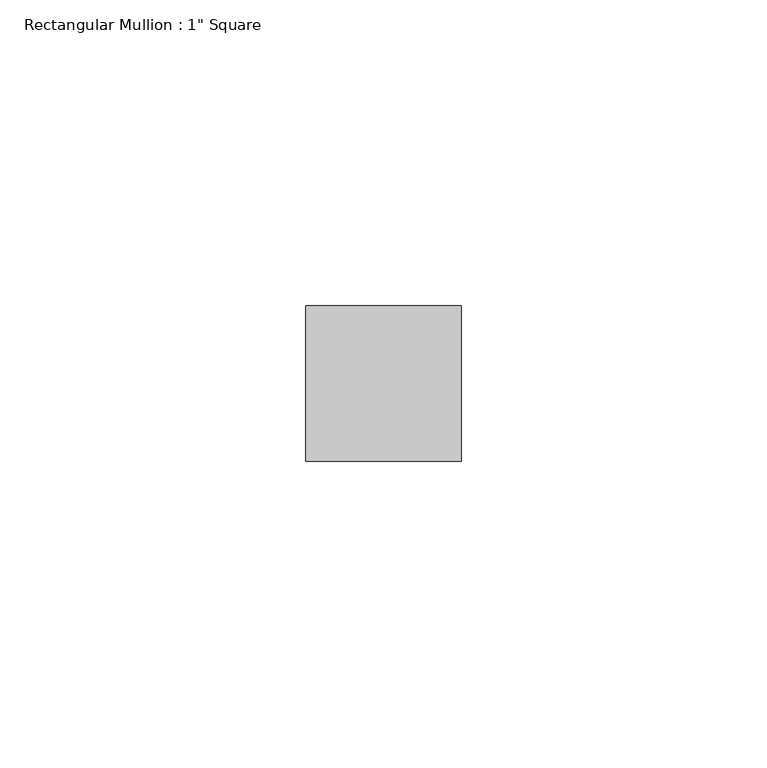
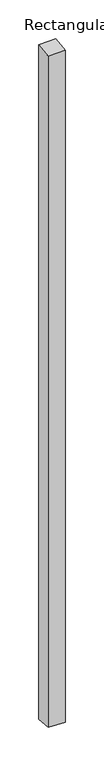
"""IFC4 building model written with IfcOpenShell, lengths in millimetres: member geometry."""

from ifc_helpers import new_model, si_unit, origin, place, context, project, spatial, faceted_brep, source, transform, mapped, element, save


def member_777b2020(model_context):
    return source(origin(), model_context, "Body", "Brep", [
        faceted_brep([(-25.4, 12.7, 0.4868194), (0.0, 12.7, 1.4174338), (0.0, 12.7, -1068.2174338), (-25.4, 12.7, -1067.2868194), (-25.4, -12.7, -2.3480482), (-25.4, -12.7, -1064.4519518), (0.0, -12.7, -1.4174338), (0.0, -12.7, -1065.3825662)], [[[0, 1, 2, 3]], [[4, 0, 3, 5]], [[6, 4, 5, 7]], [[1, 6, 7, 2]], [[1, 0, 4, 6]], [[2, 7, 5, 3]]]),
    ])


if __name__ == "__main__":
    model = new_model("IFC4")
    model_context = context("Model", 3, world=origin())
    ifc_project = project(units=[si_unit("LENGTHUNIT", "METRE", prefix="MILLI")], contexts=[model_context])
    site = spatial("IfcSite", under=ifc_project)
    building = spatial("IfcBuilding", under=site)
    placement = place(None, origin())
    member_shape = member_777b2020(model_context)
    element("IfcMember", 1, ObjectType="Rectangular Mullion : 1\" Square", at=placement, inside=building, context=model_context, shape_type="MappedRepresentation", body=[
        mapped(member_shape, transform((0.0, 0.0, 0.0), x_axis=(1.0, 0.0, 0.0), y_axis=(0.0, 1.0, 0.0), z_axis=(0.0, 0.0, 1.0))),
    ])
    save(model, "model.ifc")
